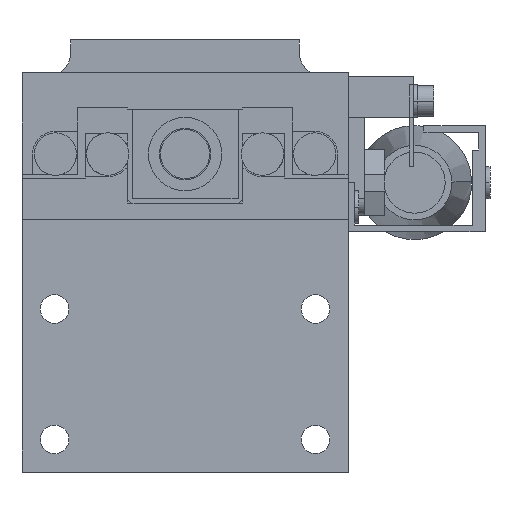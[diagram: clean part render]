
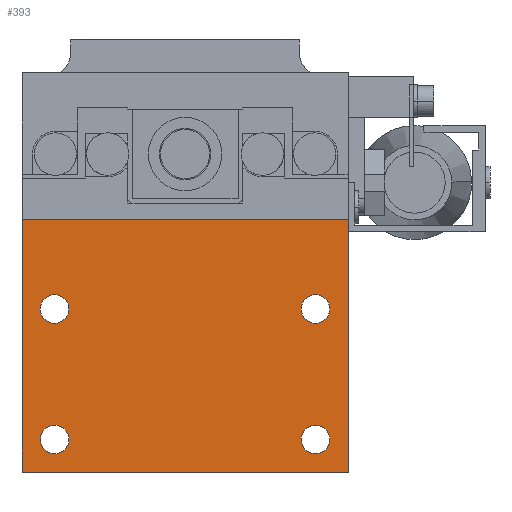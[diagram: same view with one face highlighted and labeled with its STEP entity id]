
A CAD part, front view. The second image highlights one B-rep face of the part: STEP entity #393.
In plain terms, the highlighted planar face has unit normal (0, -1, 0).
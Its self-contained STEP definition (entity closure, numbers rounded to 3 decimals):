
#393=ADVANCED_FACE('',(#1049,#1050,#1051,#1052,#1053),#1054,.F.);
#1049=FACE_BOUND('',#2367,.T.);
#1050=FACE_BOUND('',#2368,.T.);
#1051=FACE_BOUND('',#2369,.T.);
#1052=FACE_BOUND('',#2370,.T.);
#1053=FACE_OUTER_BOUND('',#2371,.T.);
#1054=PLANE('',#2372);
#2367=EDGE_LOOP('',(#3863,#3864));
#2368=EDGE_LOOP('',(#3865,#3866));
#2369=EDGE_LOOP('',(#3867,#3868));
#2370=EDGE_LOOP('',(#3869,#3870));
#2371=EDGE_LOOP('',(#3871,#3872,#3873,#3874));
#2372=AXIS2_PLACEMENT_3D('',#3875,#3876,#3877);
#3863=ORIENTED_EDGE('',*,*,#8613,.F.);
#3864=ORIENTED_EDGE('',*,*,#8531,.F.);
#3865=ORIENTED_EDGE('',*,*,#8614,.F.);
#3866=ORIENTED_EDGE('',*,*,#8527,.F.);
#3867=ORIENTED_EDGE('',*,*,#8612,.F.);
#3868=ORIENTED_EDGE('',*,*,#8535,.F.);
#3869=ORIENTED_EDGE('',*,*,#8606,.F.);
#3870=ORIENTED_EDGE('',*,*,#8539,.F.);
#3871=ORIENTED_EDGE('',*,*,#8615,.T.);
#3872=ORIENTED_EDGE('',*,*,#8598,.F.);
#3873=ORIENTED_EDGE('',*,*,#8583,.F.);
#3874=ORIENTED_EDGE('',*,*,#8600,.T.);
#3875=CARTESIAN_POINT('',(-20.0,0.0,-13.5));
#3876=DIRECTION('',(0.0,1.0,0.0));
#3877=DIRECTION('',(-1.0,0.0,0.0));
#8527=EDGE_CURVE('',#10071,#10067,#10073,.T.);
#8531=EDGE_CURVE('',#10079,#10075,#10081,.T.);
#8535=EDGE_CURVE('',#10087,#10083,#10089,.T.);
#8539=EDGE_CURVE('',#10095,#10091,#10097,.T.);
#8583=EDGE_CURVE('',#10173,#10175,#10176,.T.);
#8598=EDGE_CURVE('',#10175,#10194,#10198,.T.);
#8600=EDGE_CURVE('',#10173,#10199,#10201,.T.);
#8606=EDGE_CURVE('',#10091,#10095,#10208,.T.);
#8612=EDGE_CURVE('',#10083,#10087,#10216,.T.);
#8613=EDGE_CURVE('',#10075,#10079,#10217,.T.);
#8614=EDGE_CURVE('',#10067,#10071,#10218,.T.);
#8615=EDGE_CURVE('',#10199,#10194,#10219,.T.);
#10067=VERTEX_POINT('',#12589);
#10071=VERTEX_POINT('',#12594);
#10073=CIRCLE('',#12597,1.75);
#10075=VERTEX_POINT('',#12599);
#10079=VERTEX_POINT('',#12604);
#10081=CIRCLE('',#12607,1.75);
#10083=VERTEX_POINT('',#12609);
#10087=VERTEX_POINT('',#12614);
#10089=CIRCLE('',#12617,1.75);
#10091=VERTEX_POINT('',#12619);
#10095=VERTEX_POINT('',#12624);
#10097=CIRCLE('',#12627,1.75);
#10173=VERTEX_POINT('',#12728);
#10175=VERTEX_POINT('',#12731);
#10176=LINE('',#12732,#12733);
#10194=VERTEX_POINT('',#12759);
#10198=LINE('',#12765,#12766);
#10199=VERTEX_POINT('',#12767);
#10201=LINE('',#12770,#12771);
#10208=CIRCLE('',#12780,1.75);
#10216=CIRCLE('',#12791,1.75);
#10217=CIRCLE('',#12792,1.75);
#10218=CIRCLE('',#12793,1.75);
#10219=LINE('',#12794,#12795);
#12589=CARTESIAN_POINT('',(-16.0,0.0,-7.75));
#12594=CARTESIAN_POINT('',(-16.0,0.0,-11.25));
#12597=AXIS2_PLACEMENT_3D('',#16162,#16163,#16164);
#12599=CARTESIAN_POINT('',(16.0,0.0,8.25));
#12604=CARTESIAN_POINT('',(16.0,0.0,4.75));
#12607=AXIS2_PLACEMENT_3D('',#16170,#16171,#16172);
#12609=CARTESIAN_POINT('',(16.0,0.0,-7.75));
#12614=CARTESIAN_POINT('',(16.0,0.0,-11.25));
#12617=AXIS2_PLACEMENT_3D('',#16178,#16179,#16180);
#12619=CARTESIAN_POINT('',(-16.0,0.0,8.25));
#12624=CARTESIAN_POINT('',(-16.0,0.0,4.75));
#12627=AXIS2_PLACEMENT_3D('',#16186,#16187,#16188);
#12728=CARTESIAN_POINT('',(-20.0,0.0,-13.5));
#12731=CARTESIAN_POINT('',(-20.0,0.0,17.5));
#12732=CARTESIAN_POINT('',(-20.0,0.0,-13.5));
#12733=VECTOR('',#16266,1000.0);
#12759=CARTESIAN_POINT('',(20.0,0.0,17.5));
#12765=CARTESIAN_POINT('',(-20.0,0.0,17.5));
#12766=VECTOR('',#16289,1000.0);
#12767=CARTESIAN_POINT('',(20.0,0.0,-13.5));
#12770=CARTESIAN_POINT('',(-20.0,0.0,-13.5));
#12771=VECTOR('',#16291,1000.0);
#12780=AXIS2_PLACEMENT_3D('',#16303,#16304,#16305);
#12791=AXIS2_PLACEMENT_3D('',#16315,#16316,#16317);
#12792=AXIS2_PLACEMENT_3D('',#16318,#16319,#16320);
#12793=AXIS2_PLACEMENT_3D('',#16321,#16322,#16323);
#12794=CARTESIAN_POINT('',(20.0,0.0,-13.5));
#12795=VECTOR('',#16324,1000.0);
#16162=CARTESIAN_POINT('',(-16.0,0.0,-9.5));
#16163=DIRECTION('',(0.0,-1.0,0.0));
#16164=DIRECTION('',(0.0,0.0,1.0));
#16170=CARTESIAN_POINT('',(16.0,0.0,6.5));
#16171=DIRECTION('',(0.0,-1.0,0.0));
#16172=DIRECTION('',(0.0,0.0,1.0));
#16178=CARTESIAN_POINT('',(16.0,0.0,-9.5));
#16179=DIRECTION('',(0.0,-1.0,0.0));
#16180=DIRECTION('',(0.0,0.0,1.0));
#16186=CARTESIAN_POINT('',(-16.0,0.0,6.5));
#16187=DIRECTION('',(0.0,-1.0,0.0));
#16188=DIRECTION('',(0.0,0.0,1.0));
#16266=DIRECTION('',(0.0,0.0,1.0));
#16289=DIRECTION('',(1.0,0.0,0.0));
#16291=DIRECTION('',(1.0,0.0,0.0));
#16303=CARTESIAN_POINT('',(-16.0,0.0,6.5));
#16304=DIRECTION('',(0.0,-1.0,0.0));
#16305=DIRECTION('',(0.0,0.0,1.0));
#16315=CARTESIAN_POINT('',(16.0,0.0,-9.5));
#16316=DIRECTION('',(0.0,-1.0,0.0));
#16317=DIRECTION('',(0.0,0.0,1.0));
#16318=CARTESIAN_POINT('',(16.0,0.0,6.5));
#16319=DIRECTION('',(0.0,-1.0,0.0));
#16320=DIRECTION('',(0.0,0.0,1.0));
#16321=CARTESIAN_POINT('',(-16.0,0.0,-9.5));
#16322=DIRECTION('',(0.0,-1.0,0.0));
#16323=DIRECTION('',(0.0,0.0,1.0));
#16324=DIRECTION('',(0.0,0.0,1.0));
